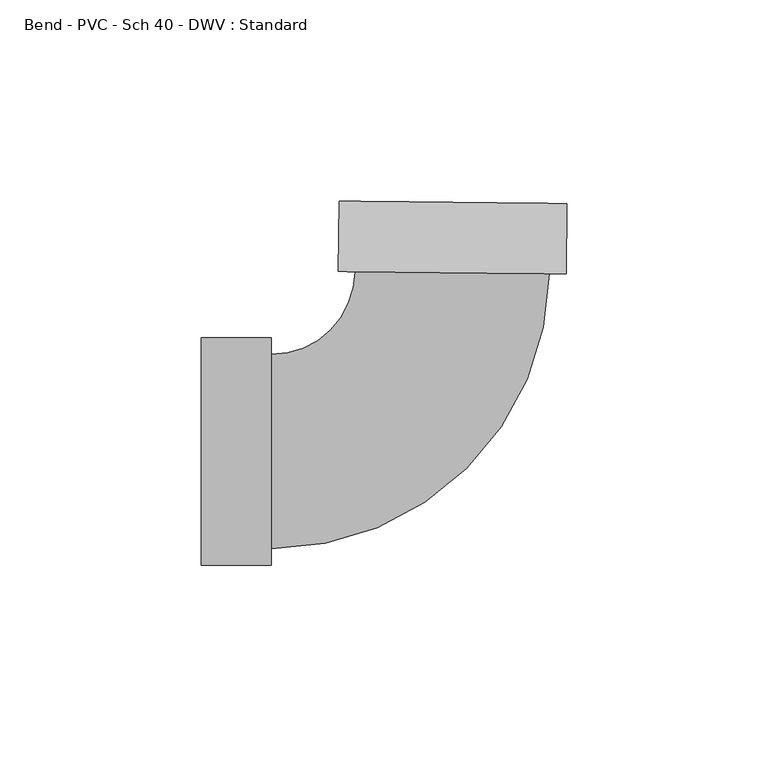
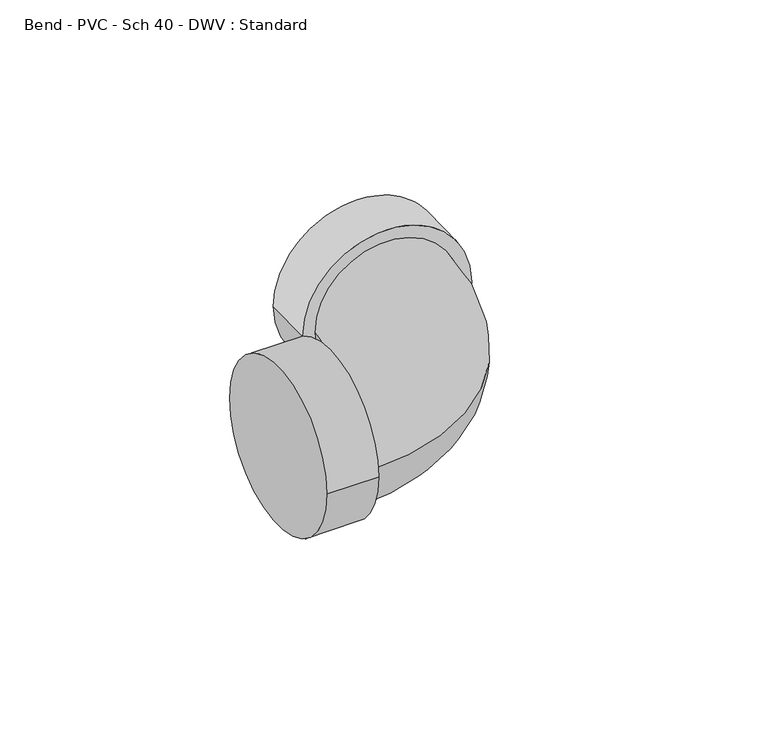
"""IFC4 building model written with IfcOpenShell, lengths in millimetres: pipe fitting geometry, Bend - PVC - Sch 40 - DWV : Standard."""

from ifc_helpers import new_model, si_unit, point, frame, origin, place, context, project, spatial, circle_curve, ellipse_curve, trimmed, source, transform, mapped, element, save
from ifc_brep_helpers import plane_surface, cylinder_surface, revolved_surface, advanced_brep


def bend_pvc_sch_40_dwv_standard_56513ac6(model_context):
    return source(origin(), model_context, "Body", "AdvancedBrep", [
        advanced_brep(
        [(-61.8998, -28.2829, 0.0), (-61.8998, 28.2829, 0.0), (-44.45, -28.2829, 0.0), (-44.45, 28.2829, 0.0), (-44.45, -24.13, 0.0), (-44.45, 24.13, 0.0), (-23.6656953, 44.6989292, 0.0), (24.5916867, 44.1962481, 0.0), (28.7443614, 44.1529911, 0.0), (-27.81837, 44.7421862, 0.0), (28.9261203, 61.6018444, 0.0), (-27.6366111, 62.1910396, 0.0)],
        [
            (0, 1, circle_curve(frame((-61.8998, 0.0, 0.0), z_axis=(-1.0, 0.0, 0.0), x_axis=(0.0, 1.0, 0.0)), 28.2829)),
            (1, 0, circle_curve(frame((-61.8998, 0.0, 0.0), z_axis=(-1.0, 0.0, 0.0), x_axis=(0.0, 1.0, 0.0)), 28.2829)),
            (2, 3, circle_curve(frame((-44.45, 0.0, 0.0), z_axis=(1.0, 0.0, 0.0), x_axis=(0.0, 1.0, 0.0)), 28.2829)),
            (3, 2, circle_curve(frame((-44.45, 0.0, 0.0), z_axis=(1.0, 0.0, 0.0), x_axis=(0.0, 1.0, 0.0)), 28.2829)),
            (4, 5, circle_curve(frame((-44.45, 0.0, 0.0), z_axis=(-1.0, 0.0, 0.0), x_axis=(0.0, 1.0, 0.0)), 24.13)),
            (5, 4, circle_curve(frame((-44.45, 0.0, 0.0), z_axis=(-1.0, 0.0, 0.0), x_axis=(0.0, 1.0, 0.0)), 24.13)),
            (0, 2),
            (3, 1),
            (6, 5, circle_curve(frame((-44.45, 44.9154323, 0.0), z_axis=(0.0, 0.0, -1.0), x_axis=(0.0, -1.0, 0.0)), 20.7854323)),
            (4, 7, circle_curve(frame((-44.45, 44.9154323, 0.0), z_axis=(0.0, 0.0, 1.0), x_axis=(0.0, -1.0, 0.0)), 69.0454323)),
            (7, 6, circle_curve(frame((0.4629957, 44.4475886, 0.0), z_axis=(-0.01041610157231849, -0.9999457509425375, 0.0), x_axis=(-0.9999457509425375, 0.01041610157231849, 0.0)), 24.13)),
            (6, 7, circle_curve(frame((0.4629957, 44.4475886, 0.0), z_axis=(-0.01041610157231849, -0.9999457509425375, 0.0), x_axis=(-0.9999457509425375, 0.01041610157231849, 0.0)), 24.13)),
            (8, 9, circle_curve(frame((0.4629957, 44.4475886, 0.0), z_axis=(-0.01041610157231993, -0.9999457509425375, 0.0), x_axis=(-0.9999457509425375, 0.01041610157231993, 0.0)), 28.2829)),
            (9, 8, circle_curve(frame((0.4629957, 44.4475886, 0.0), z_axis=(-0.01041610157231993, -0.9999457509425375, 0.0), x_axis=(-0.9999457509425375, 0.01041610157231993, 0.0)), 28.2829)),
            (10, 11, circle_curve(frame((0.6447546, 61.896442, 0.0), z_axis=(0.01041610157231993, 0.9999457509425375, 0.0), x_axis=(-0.9999457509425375, 0.01041610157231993, 0.0)), 28.2829)),
            (11, 10, circle_curve(frame((0.6447546, 61.896442, 0.0), z_axis=(0.01041610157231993, 0.9999457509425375, 0.0), x_axis=(-0.9999457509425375, 0.01041610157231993, 0.0)), 28.2829)),
            (8, 10),
            (11, 9),
        ],
        [
            plane_surface(frame((-61.8998, 0.0, 0.0), z_axis=(-1.0, 0.0, 0.0), x_axis=(0.0, 0.0, 1.0))),
            plane_surface(frame((-44.45, 0.0, 0.0), z_axis=(1.0, 0.0, 0.0), x_axis=(0.0, 0.0, 1.0))),
            cylinder_surface(frame((-61.8998, 0.0, 0.0), z_axis=(-1.0, 0.0, 0.0), x_axis=(0.0, 1.0, 0.0)), 28.2829),
            revolved_surface(trimmed(ellipse_curve(frame((-44.45, 0.0, 0.0), z_axis=(-1.0, 0.0, 0.0), x_axis=(0.0, 1.0, 0.0)), 24.13, 24.13), [point((-44.45, -24.13, 0.0))], [point((-44.45, 24.13, 0.0))], True, "CARTESIAN"), (-44.45, 44.9154323, 0.0), (0.0, 0.0, 1.0)),
            revolved_surface(trimmed(ellipse_curve(frame((-44.45, 0.0, 0.0), z_axis=(-1.0, 0.0, 0.0), x_axis=(0.0, 1.0, 0.0)), 24.13, 24.13), [point((-44.45, 24.13, 0.0))], [point((-44.45, -24.13, 0.0))], True, "CARTESIAN"), (-44.45, 44.9154323, 0.0), (0.0, 0.0, 1.0)),
            plane_surface(frame((0.4629957, 44.4475886, 0.0), z_axis=(-0.010416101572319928, -0.9999457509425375, 0.0), x_axis=(0.0, 0.0, 1.0))),
            plane_surface(frame((0.6447546, 61.896442, 0.0), z_axis=(0.010416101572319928, 0.9999457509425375, 0.0), x_axis=(0.0, 0.0, 1.0))),
            cylinder_surface(frame((0.4629957, 44.4475886, 0.0), z_axis=(-0.01041610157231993, -0.9999457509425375, 0.0), x_axis=(-0.9999457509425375, 0.01041610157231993, 0.0)), 28.2829),
        ],
        [
            (0, [[1, 2]]),
            (1, [[3, 4], [5, 6]]),
            (2, [[-1, 7, -4, 8]]),
            (2, [[-2, -8, -3, -7]]),
            (3, [[9, -5, 10, 11]]),
            (4, [[-9, 12, -10, -6]]),
            (5, [[13, 14], [-11, -12]]),
            (6, [[15, 16]]),
            (7, [[-13, 17, -16, 18]]),
            (7, [[-14, -18, -15, -17]]),
        ],
    ),
    ])


if __name__ == "__main__":
    model = new_model("IFC4")
    model_context = context("Model", 3, world=origin())
    ifc_project = project(units=[si_unit("LENGTHUNIT", "METRE", prefix="MILLI")], contexts=[model_context])
    site = spatial("IfcSite", under=ifc_project)
    building = spatial("IfcBuilding", under=site)
    placement = place(None, origin())
    bend_pvc_sch_40_dwv_standard_shape = bend_pvc_sch_40_dwv_standard_56513ac6(model_context)
    element("IfcPipeFitting", 1, ObjectType="Bend - PVC - Sch 40 - DWV : Standard", at=placement, inside=building, context=model_context, shape_type="MappedRepresentation", body=[
        mapped(bend_pvc_sch_40_dwv_standard_shape, transform((0.0, 0.0, 0.0), x_axis=(1.0, 0.0, 0.0), y_axis=(0.0, 1.0, 0.0), z_axis=(0.0, 0.0, 1.0))),
    ])
    save(model, "model.ifc")
